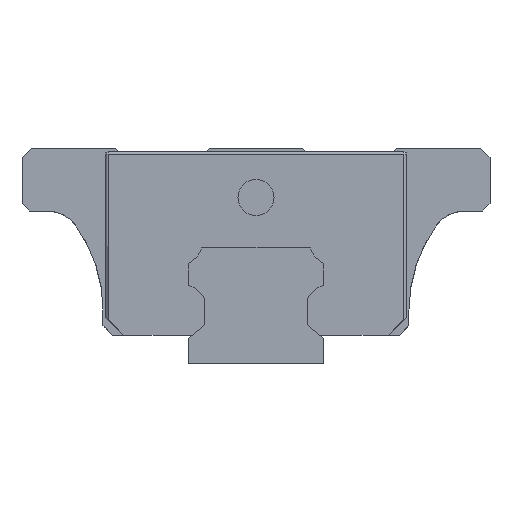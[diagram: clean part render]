
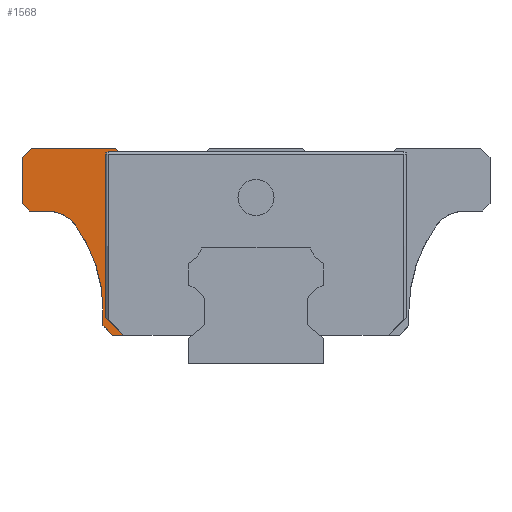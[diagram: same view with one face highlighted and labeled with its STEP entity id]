
A CAD part, left-side view. The second image highlights one B-rep face of the part: STEP entity #1568.
In plain terms, the highlighted planar face has unit normal (-1, 0, 0).
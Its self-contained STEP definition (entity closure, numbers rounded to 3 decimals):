
#13 = DIRECTION ( 'NONE',  ( 0., -1., 0. ) ) ;
#185 = ORIENTED_EDGE ( 'NONE', *, *, #2024, .F. ) ;
#197 = DIRECTION ( 'NONE',  ( 0., 1., 0. ) ) ;
#199 = ORIENTED_EDGE ( 'NONE', *, *, #266, .T. ) ;
#210 = VECTOR ( 'NONE', #2338, 1000. ) ;
#237 = CARTESIAN_POINT ( 'NONE',  ( -19.75, 24.95, 24. ) ) ;
#266 = EDGE_CURVE ( 'NONE', #4244, #2542, #2227, .T. ) ;
#447 = VERTEX_POINT ( 'NONE', #7711 ) ;
#452 = CIRCLE ( 'NONE', #1374, 4. ) ;
#524 = LINE ( 'NONE', #4332, #5380 ) ;
#607 = ORIENTED_EDGE ( 'NONE', *, *, #3352, .T. ) ;
#636 = CARTESIAN_POINT ( 'NONE',  ( -19.75, 16.702, 5.2 ) ) ;
#780 = EDGE_CURVE ( 'NONE', #3377, #7083, #4288, .T. ) ;
#842 = LINE ( 'NONE', #237, #4458 ) ;
#1062 = EDGE_CURVE ( 'NONE', #4189, #4159, #3657, .T. ) ;
#1091 = ORIENTED_EDGE ( 'NONE', *, *, #6330, .T. ) ;
#1116 = LINE ( 'NONE', #4934, #5562 ) ;
#1185 = DIRECTION ( 'NONE',  ( -1., 0., 0. ) ) ;
#1211 = VERTEX_POINT ( 'NONE', #3793 ) ;
#1279 = CARTESIAN_POINT ( 'NONE',  ( -19.75, -6.587, 3.2 ) ) ;
#1374 = AXIS2_PLACEMENT_3D ( 'NONE', #1485, #6416, #6452 ) ;
#1380 = EDGE_CURVE ( 'NONE', #2542, #7507, #1720, .T. ) ;
#1485 = CARTESIAN_POINT ( 'NONE',  ( -19.75, 23.253, 13. ) ) ;
#1497 = ORIENTED_EDGE ( 'NONE', *, *, #3937, .T. ) ;
#1568 = ADVANCED_FACE ( 'NONE', ( #5747 ), #4920, .T. ) ;
#1601 = CARTESIAN_POINT ( 'NONE',  ( -19.75, 20.004, 15.333 ) ) ;
#1667 = ORIENTED_EDGE ( 'NONE', *, *, #2288, .T. ) ;
#1720 = LINE ( 'NONE', #5490, #6572 ) ;
#1753 = LINE ( 'NONE', #6860, #4021 ) ;
#1761 = CARTESIAN_POINT ( 'NONE',  ( -19.75, 33., 6. ) ) ;
#1793 = DIRECTION ( 'NONE',  ( 0., -1., 0. ) ) ;
#1886 = EDGE_CURVE ( 'NONE', #3545, #6583, #524, .T. ) ;
#1972 = ORIENTED_EDGE ( 'NONE', *, *, #1062, .T. ) ;
#1983 = DIRECTION ( 'NONE',  ( 0., 0., -1. ) ) ;
#1994 = EDGE_CURVE ( 'NONE', #1211, #4971, #842, .T. ) ;
#2007 = CARTESIAN_POINT ( 'NONE',  ( -19.75, 14.702, 3.2 ) ) ;
#2024 = EDGE_CURVE ( 'NONE', #4189, #6035, #5809, .T. ) ;
#2064 = ORIENTED_EDGE ( 'NONE', *, *, #1380, .T. ) ;
#2151 = DIRECTION ( 'NONE',  ( 0., 0.707, -0.707 ) ) ;
#2154 = DIRECTION ( 'NONE',  ( 1., 0., 0. ) ) ;
#2227 = CIRCLE ( 'NONE', #6308, 16. ) ;
#2258 = CARTESIAN_POINT ( 'NONE',  ( -19.75, 26., 17.8 ) ) ;
#2270 = CARTESIAN_POINT ( 'NONE',  ( -19.75, 16.442, 23.33 ) ) ;
#2288 = EDGE_CURVE ( 'NONE', #4971, #447, #3658, .T. ) ;
#2338 = DIRECTION ( 'NONE',  ( 0., 0., -1. ) ) ;
#2346 = DIRECTION ( 'NONE',  ( 0., -0.707, -0.707 ) ) ;
#2414 = VECTOR ( 'NONE', #6170, 1000. ) ;
#2538 = DIRECTION ( 'NONE',  ( 0., 1., 0. ) ) ;
#2542 = VERTEX_POINT ( 'NONE', #7435 ) ;
#3012 = EDGE_CURVE ( 'NONE', #4159, #1211, #1753, .T. ) ;
#3029 = CARTESIAN_POINT ( 'NONE',  ( -19.75, 16.702, 23.125 ) ) ;
#3228 = AXIS2_PLACEMENT_3D ( 'NONE', #2270, #2154, #4720 ) ;
#3352 = EDGE_CURVE ( 'NONE', #6467, #6035, #5328, .T. ) ;
#3377 = VERTEX_POINT ( 'NONE', #5430 ) ;
#3545 = VERTEX_POINT ( 'NONE', #7609 ) ;
#3657 = LINE ( 'NONE', #6262, #2414 ) ;
#3658 = LINE ( 'NONE', #6171, #4540 ) ;
#3682 = DIRECTION ( 'NONE',  ( 0., 0., 1. ) ) ;
#3746 = LINE ( 'NONE', #636, #5290 ) ;
#3793 = CARTESIAN_POINT ( 'NONE',  ( -19.75, 24.95, 24. ) ) ;
#3914 = ORIENTED_EDGE ( 'NONE', *, *, #6454, .F. ) ;
#3937 = EDGE_CURVE ( 'NONE', #7507, #3377, #1116, .T. ) ;
#4021 = VECTOR ( 'NONE', #2538, 1000. ) ;
#4126 = VECTOR ( 'NONE', #1793, 1000. ) ;
#4132 = CARTESIAN_POINT ( 'NONE',  ( -19.75, 15.256, 23.59 ) ) ;
#4159 = VERTEX_POINT ( 'NONE', #5251 ) ;
#4189 = VERTEX_POINT ( 'NONE', #4132 ) ;
#4209 = DIRECTION ( 'NONE',  ( 0., 0., -1. ) ) ;
#4244 = VERTEX_POINT ( 'NONE', #1601 ) ;
#4288 = LINE ( 'NONE', #6228, #4126 ) ;
#4300 = EDGE_CURVE ( 'NONE', #6467, #4854, #6071, .T. ) ;
#4332 = CARTESIAN_POINT ( 'NONE',  ( -19.75, 25.2, 17. ) ) ;
#4390 = ORIENTED_EDGE ( 'NONE', *, *, #4300, .F. ) ;
#4402 = ORIENTED_EDGE ( 'NONE', *, *, #780, .T. ) ;
#4458 = VECTOR ( 'NONE', #2151, 1000. ) ;
#4540 = VECTOR ( 'NONE', #1983, 1000. ) ;
#4720 = DIRECTION ( 'NONE',  ( 0., 0., 1. ) ) ;
#4814 = ORIENTED_EDGE ( 'NONE', *, *, #1994, .T. ) ;
#4854 = VERTEX_POINT ( 'NONE', #6347 ) ;
#4920 = PLANE ( 'NONE',  #6041 ) ;
#4934 = CARTESIAN_POINT ( 'NONE',  ( -19.75, 17., 4.25 ) ) ;
#4971 = VERTEX_POINT ( 'NONE', #6083 ) ;
#5091 = ORIENTED_EDGE ( 'NONE', *, *, #5177, .T. ) ;
#5159 = CARTESIAN_POINT ( 'NONE',  ( -19.75, 16.442, 23.59 ) ) ;
#5177 = EDGE_CURVE ( 'NONE', #6583, #4244, #452, .T. ) ;
#5251 = CARTESIAN_POINT ( 'NONE',  ( -19.75, 15.6, 24. ) ) ;
#5258 = DIRECTION ( 'NONE',  ( 0., -0.707, -0.707 ) ) ;
#5290 = VECTOR ( 'NONE', #6881, 1000. ) ;
#5328 = CIRCLE ( 'NONE', #3228, 0.26 ) ;
#5380 = VECTOR ( 'NONE', #13, 1000. ) ;
#5430 = CARTESIAN_POINT ( 'NONE',  ( -19.75, 15.95, 3.2 ) ) ;
#5490 = CARTESIAN_POINT ( 'NONE',  ( -19.75, 17., 6. ) ) ;
#5562 = VECTOR ( 'NONE', #2346, 1000. ) ;
#5747 = FACE_OUTER_BOUND ( 'NONE', #6591, .T. ) ;
#5809 = LINE ( 'NONE', #7618, #5907 ) ;
#5907 = VECTOR ( 'NONE', #197, 1000. ) ;
#5929 = ORIENTED_EDGE ( 'NONE', *, *, #1886, .T. ) ;
#5987 = DIRECTION ( 'NONE',  ( 1., 0., 0. ) ) ;
#5998 = LINE ( 'NONE', #2258, #6742 ) ;
#6035 = VERTEX_POINT ( 'NONE', #5159 ) ;
#6041 = AXIS2_PLACEMENT_3D ( 'NONE', #1279, #1185, #3682 ) ;
#6071 = LINE ( 'NONE', #3029, #210 ) ;
#6083 = CARTESIAN_POINT ( 'NONE',  ( -19.75, 26., 22.95 ) ) ;
#6170 = DIRECTION ( 'NONE',  ( 0., 0.643, 0.766 ) ) ;
#6171 = CARTESIAN_POINT ( 'NONE',  ( -19.75, 26., 24. ) ) ;
#6228 = CARTESIAN_POINT ( 'NONE',  ( -19.75, 17.674, 3.2 ) ) ;
#6262 = CARTESIAN_POINT ( 'NONE',  ( -19.75, 15.233, 23.563 ) ) ;
#6298 = CARTESIAN_POINT ( 'NONE',  ( -19.75, 23.253, 17. ) ) ;
#6308 = AXIS2_PLACEMENT_3D ( 'NONE', #1761, #5987, #7388 ) ;
#6330 = EDGE_CURVE ( 'NONE', #447, #3545, #5998, .T. ) ;
#6347 = CARTESIAN_POINT ( 'NONE',  ( -19.75, 16.702, 5.2 ) ) ;
#6416 = DIRECTION ( 'NONE',  ( 1., 0., 0. ) ) ;
#6452 = DIRECTION ( 'NONE',  ( 0., 0., 1. ) ) ;
#6454 = EDGE_CURVE ( 'NONE', #4854, #7083, #3746, .T. ) ;
#6467 = VERTEX_POINT ( 'NONE', #7318 ) ;
#6572 = VECTOR ( 'NONE', #4209, 1000. ) ;
#6583 = VERTEX_POINT ( 'NONE', #6298 ) ;
#6584 = CARTESIAN_POINT ( 'NONE',  ( -19.75, 17., 4.25 ) ) ;
#6591 = EDGE_LOOP ( 'NONE', ( #4814, #1667, #1091, #5929, #5091, #199, #2064, #1497, #4402, #3914, #4390, #607, #185, #1972, #7452 ) ) ;
#6742 = VECTOR ( 'NONE', #5258, 1000. ) ;
#6860 = CARTESIAN_POINT ( 'NONE',  ( -19.75, 15.6, 24. ) ) ;
#6881 = DIRECTION ( 'NONE',  ( 0., -0.707, -0.707 ) ) ;
#7083 = VERTEX_POINT ( 'NONE', #2007 ) ;
#7318 = CARTESIAN_POINT ( 'NONE',  ( -19.75, 16.702, 23.33 ) ) ;
#7388 = DIRECTION ( 'NONE',  ( 0., 0., 1. ) ) ;
#7435 = CARTESIAN_POINT ( 'NONE',  ( -19.75, 17., 6. ) ) ;
#7452 = ORIENTED_EDGE ( 'NONE', *, *, #3012, .T. ) ;
#7507 = VERTEX_POINT ( 'NONE', #6584 ) ;
#7609 = CARTESIAN_POINT ( 'NONE',  ( -19.75, 25.2, 17. ) ) ;
#7618 = CARTESIAN_POINT ( 'NONE',  ( -19.75, -18.027, 23.59 ) ) ;
#7711 = CARTESIAN_POINT ( 'NONE',  ( -19.75, 26., 17.8 ) ) ;
